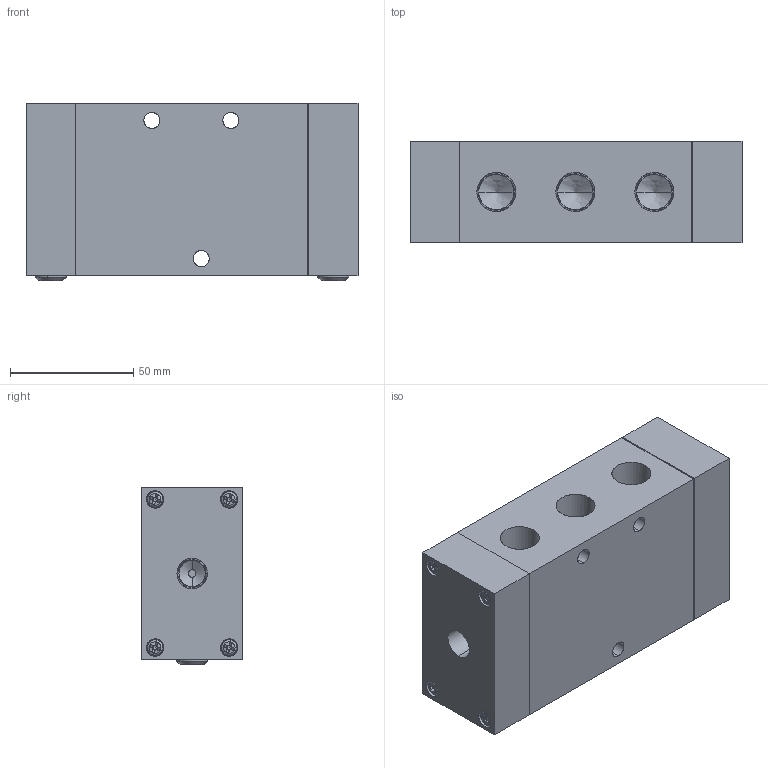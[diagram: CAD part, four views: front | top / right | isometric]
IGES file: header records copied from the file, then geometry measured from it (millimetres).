
Start section: SolidWorks IGES file using analytic representation for surfaces
Global section: file name: D:\Custom\3D繪製\VM\V06,10\VP2410-03.IGS,1; native system: 5HSolidWorks 2014; preprocessor: SolidWorks 2014; author: Chieh_Lu; date: 160114.024114; units: millimetre
Bounding box: 134.5 x 41.15 x 72 mm (x, y, z)
Surface area: 66811.5 mm2 (no closed solid volume)
Topology: 0 solids, 0 shells, 736 faces, 7870 edges, 7822 vertices
Faces by surface type: bspline 499, revolution 237
